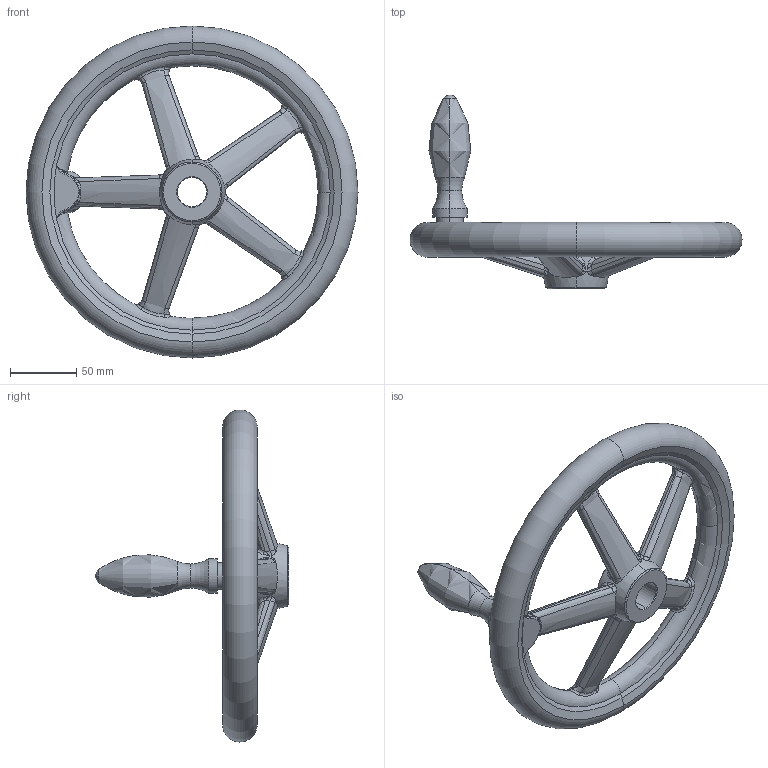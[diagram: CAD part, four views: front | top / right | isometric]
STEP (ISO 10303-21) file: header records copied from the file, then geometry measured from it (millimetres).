
FILE_DESCRIPTION (( 'STEP AP203' ), '1' );
FILE_NAME ('din950_f4_250x22.step', '2010-03-23T10:33:29', ( '_' ), ( '_' ), 'SwSTEP 2.0', 'SolidWorks 2010', '' );
FILE_SCHEMA (( 'CONFIG_CONTROL_DESIGN' ));
Length unit declared in the file: millimetre
Products named in the file (1): din950_f4_250x22
Bounding box: 250 x 146 x 250 mm (x, y, z)
Volume: 584866.4 mm3; surface area: 97150.9 mm2
Topology: 1 solids, 1 shells, 263 faces, 638 edges, 349 vertices
Faces by surface type: bspline 176, torus 25, sphere 18, plane 17, cone 16, cylinder 11
Entity records: 37317 total; most frequent: CARTESIAN_POINT 32278, ORIENTED_EDGE 1232, DIRECTION 712, EDGE_CURVE 616, VERTEX_POINT 349, AXIS2_PLACEMENT_3D 343, B_SPLINE_CURVE_WITH_KNOTS 335, EDGE_LOOP 269
